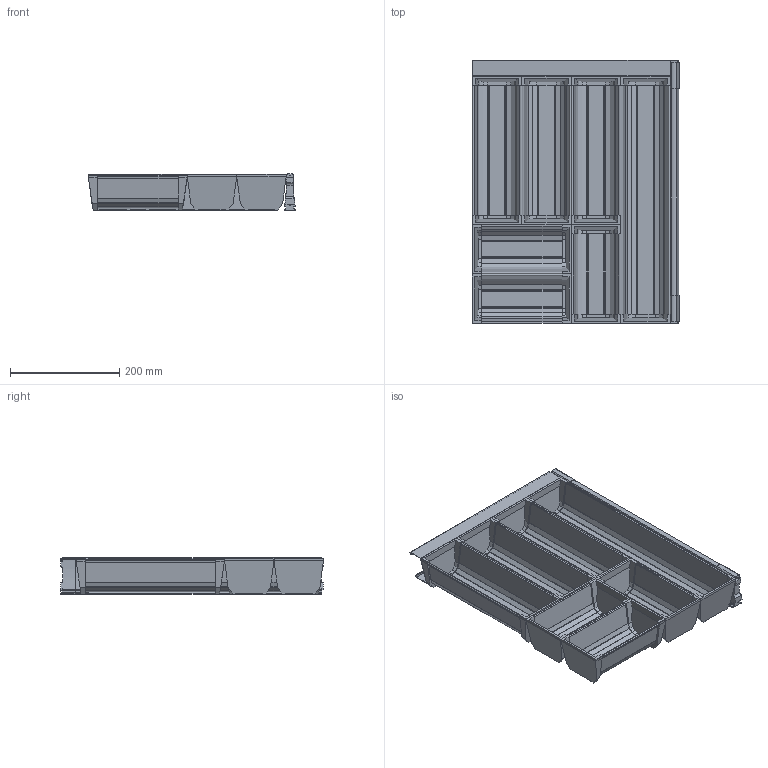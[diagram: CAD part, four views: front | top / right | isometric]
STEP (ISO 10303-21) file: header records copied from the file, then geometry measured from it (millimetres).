
FILE_DESCRIPTION (( 'STEP AP214' ), '1' );
FILE_NAME ('Inoxsys_B4_NL-500.STEP', '2010-08-17T11:35:21', ( 'grass' ), ( '' ), 'SwSTEP 2.0', 'SolidWorks 2010', '' );
FILE_SCHEMA (( 'AUTOMOTIVE_DESIGN' ));
Length unit declared in the file: millimetre
Products named in the file (1): Inoxsys_B4_NL-500
Bounding box: 379.4 x 481 x 67.5 mm (x, y, z)
Volume: 950509 mm3; surface area: 970406.5 mm2
Topology: 9 solids, 9 shells, 925 faces, 2679 edges, 1786 vertices
Faces by surface type: plane 631, cylinder 294
Entity records: 40762 total; most frequent: CARTESIAN_POINT 5697, ORIENTED_EDGE 5358, DIRECTION 5031, EDGE_CURVE 2679, VECTOR 2047, LINE 2047, VERTEX_POINT 1786, AXIS2_PLACEMENT_3D 1492
